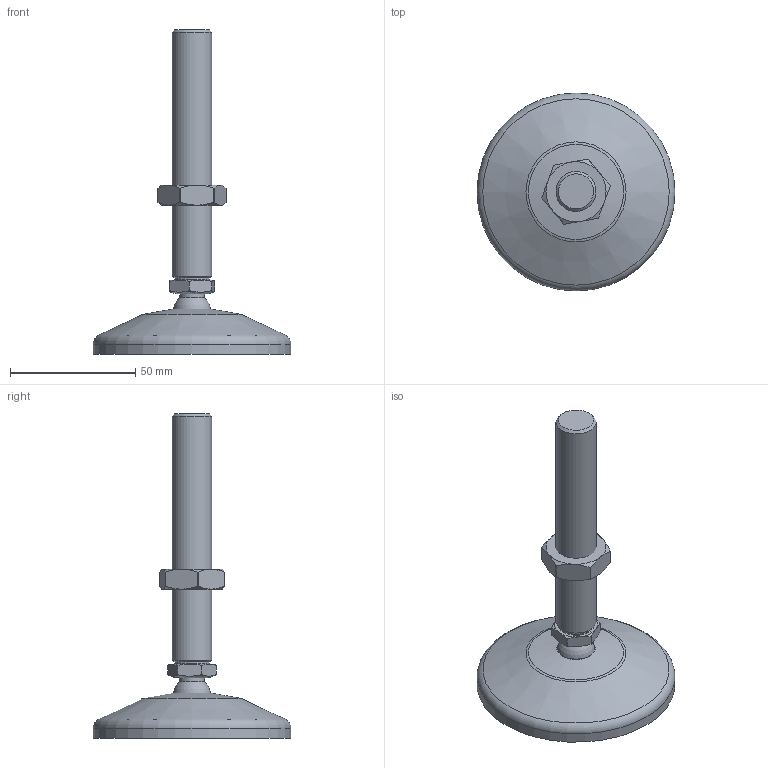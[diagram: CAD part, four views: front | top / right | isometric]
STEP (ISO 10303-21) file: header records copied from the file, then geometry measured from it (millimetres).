
FILE_DESCRIPTION(('STEP AP242'),'1');
FILE_NAME('TAPID80M16100PA.stp','2026-10-12T10:30:51',(' '),(' '),'Spatial InterOp 3D',' ',' ');
FILE_SCHEMA(('AP242_MANAGED_MODEL_BASED_3D_ENGINEERING_MIM_LF {1 0 10303 442 1 1 4}'));
Length unit declared in the file: millimetre
Products named in the file (5): Pied Ø80 PA - M16x100 articulé réglable (+/- 30mm); HB M16 - ZN; Tige filetée M16x100 (Ø15); Embase PA Ø80 (Ø15); TAPID80M16100PA
Assembly tree (4 placements, depth 3):
  TAPID80M16100PA
    Pied Ø80 PA - M16x100 articulé réglable (+/- 30mm)
      HB M16 - ZN
      Tige filetée M16x100 (Ø15)
      Embase PA Ø80 (Ø15)
Bounding box: 79 x 79 x 129.5 mm (x, y, z)
Volume: 67068.3 mm3; surface area: 21042 mm2
Topology: 3 solids, 3 shells, 78 faces, 179 edges, 109 vertices
Faces by surface type: plane 20, cylinder 20, cone 18, torus 17, sphere 2, bspline 1
Full cylindrical faces by diameter (mm): 10 x1, 14 x2, 15 x1, 15.5 x1, 16 x1, 69 x1, 79 x1
Entity records: 3315 total; most frequent: CARTESIAN_POINT 841, DIRECTION 338, ORIENTED_EDGE 304, AXIS2_PLACEMENT_3D 157, EDGE_CURVE 152, EDGE_LOOP 104, VERTEX_POINT 104, FACE_OUTER_BOUND 92
